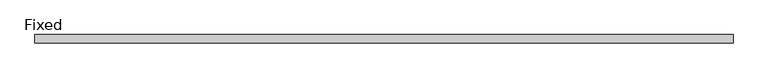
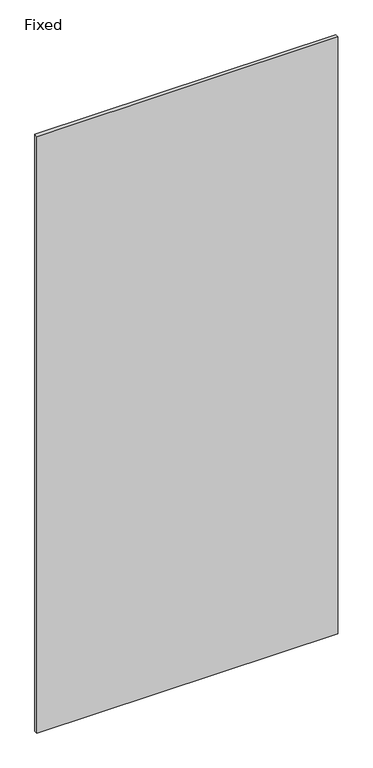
"""IFC4 building model written with IfcOpenShell, lengths in millimetres: plate geometry, 2019_Panel_Klein_Nature_Fixed : Fixed."""

from ifc_helpers import new_model, si_unit, origin, origin_with_axes, place, context, project, spatial, polyline, outline, extrude, source, transform, mapped, element, save


def fixed_b180db11(model_context):
    return source(origin(), model_context, "Body", "SweptSolid", [
        extrude(outline(polyline([(-499.9999999, 26.3), (499.9999999, 26.3), (499.9999999, 14.3), (-499.9999999, 14.3), (-499.9999999, 26.3)])), origin_with_axes(), (0.0, 0.0, 1.0), 2097.5000015),
    ])


if __name__ == "__main__":
    model = new_model("IFC4")
    model_context = context("Model", 3, world=origin())
    ifc_project = project(units=[si_unit("LENGTHUNIT", "METRE", prefix="MILLI")], contexts=[model_context])
    site = spatial("IfcSite", under=ifc_project)
    building = spatial("IfcBuilding", under=site)
    placement = place(None, origin())
    fixed_shape = fixed_b180db11(model_context)
    element("IfcPlate", 1, ObjectType="2019_Panel_Klein_Nature_Fixed : Fixed", at=placement, inside=building, context=model_context, shape_type="MappedRepresentation", body=[
        mapped(fixed_shape, transform((0.0, 0.0, 0.0), x_axis=(1.0, 0.0, 0.0), y_axis=(0.0, 1.0, 0.0), z_axis=(0.0, 0.0, 1.0))),
    ])
    save(model, "model.ifc")
